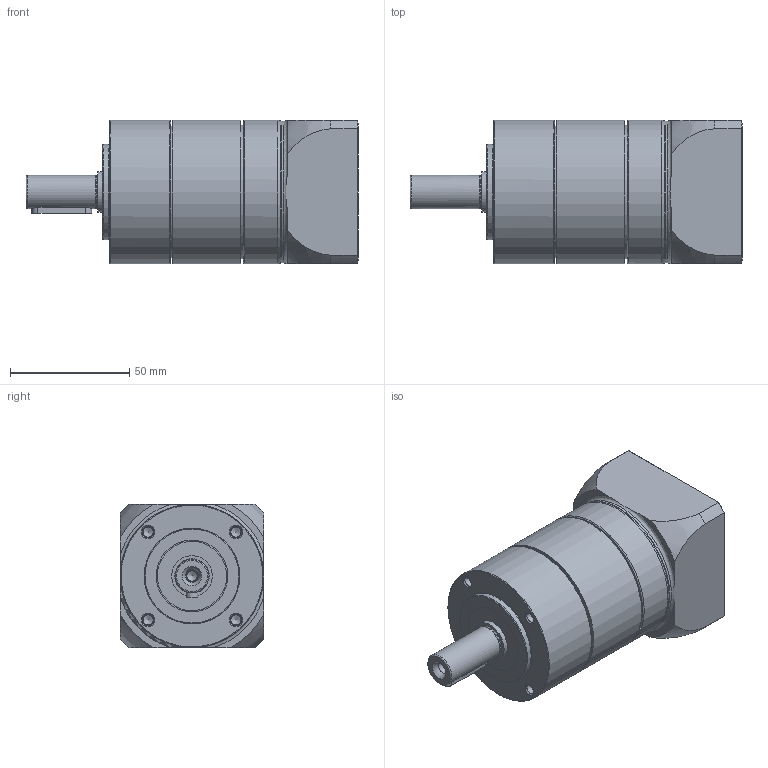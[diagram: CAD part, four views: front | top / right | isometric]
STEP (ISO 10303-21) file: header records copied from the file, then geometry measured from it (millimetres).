
FILE_DESCRIPTION(/* description */ (''),/* implementation_level */ '2;1');
FILE_NAME(/* name */ 'D:\vault\F-JPカタログデータ_byMK\差替え減速機_2023\PG2-060_XXX_200W_400W.stp',/* time_stamp */ '2023-08-29T18:30:00+09:00',/* author */ ('jp6u7013'),/* organization */ (''),/* preprocessor_version */ 'ST-DEVELOPER v18.1',/* originating_system */ 'Autodesk Inventor 2021',/* authorisation */ '');
FILE_SCHEMA (('AUTOMOTIVE_DESIGN { 1 0 10303 214 3 1 1 }'));
Length unit declared in the file: inch
Products named in the file (1): PG2-060_XXX_200W_400W_P1346230503
Bounding box: 139 x 60 x 60 mm (x, y, z)
Volume: 303698.3 mm3; surface area: 65872.2 mm2
Topology: 7 solids, 17 shells, 198 faces, 469 edges, 307 vertices
Faces by surface type: plane 65, cylinder 60, cone 32, torus 21, bspline 20
Full cylindrical faces by diameter (mm): 4.2 x8, 4.3 x2, 5 x10, 5.3 x1, 5.6 x1, 6 x1, 7.4 x1, 8.1 x1, 9.5 x2, 13.6 x1, 14 x2, 17 x2, 20 x1, 26 x1, 30 x1, 36 x1, 39.8 x1, 40 x1, 44.5 x1, 49 x1, 50 x1, 55 x1, 56 x1, 59.4 x1, 60 x3
Entity records: 12296 total; most frequent: CARTESIAN_POINT 7708, DIRECTION 959, ORIENTED_EDGE 897, EDGE_CURVE 459, AXIS2_PLACEMENT_3D 401, VERTEX_POINT 307, EDGE_LOOP 238, CIRCLE 206
